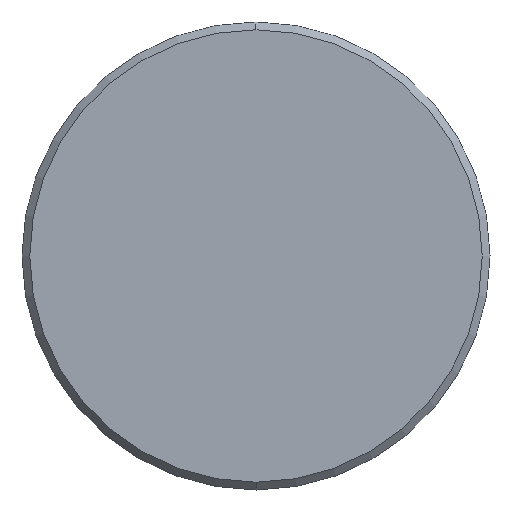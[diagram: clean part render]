
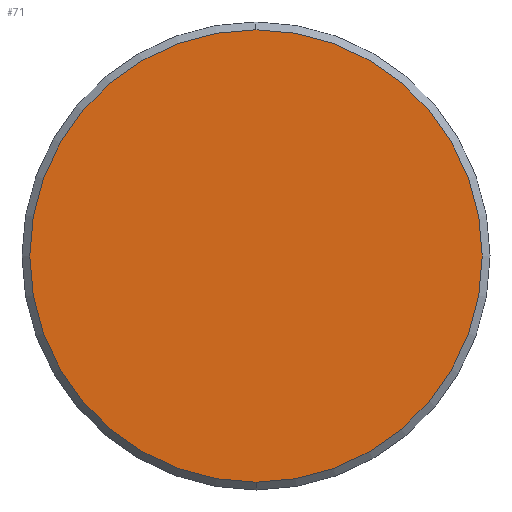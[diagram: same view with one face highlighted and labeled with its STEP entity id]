
A CAD part, left-side view. The second image highlights one B-rep face of the part: STEP entity #71.
In plain terms, the highlighted planar face has unit normal (-1, 0, 0).
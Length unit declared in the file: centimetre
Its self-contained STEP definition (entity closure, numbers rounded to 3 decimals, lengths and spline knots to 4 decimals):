
#10 = EDGE_CURVE ( 'NONE', #13, #49, #92, .T. ) ;
#13 = VERTEX_POINT ( 'NONE', #146 ) ;
#41 = EDGE_LOOP ( 'NONE', ( #73, #74 ) ) ;
#49 = VERTEX_POINT ( 'NONE', #155 ) ;
#71 = ADVANCED_FACE ( 'NONE', ( #241 ), #240, .T. ) ;
#73 = ORIENTED_EDGE ( 'NONE', *, *, #85, .T. ) ;
#74 = ORIENTED_EDGE ( 'NONE', *, *, #10, .T. ) ;
#85 = EDGE_CURVE ( 'NONE', #49, #13, #261, .T. ) ;
#88 = DIRECTION ( 'NONE',  ( 0., 0., -1. ) ) ;
#89 = DIRECTION ( 'NONE',  ( -1., 0., 0. ) ) ;
#90 = CARTESIAN_POINT ( 'NONE',  ( 0., 0., 0. ) ) ;
#91 = AXIS2_PLACEMENT_3D ( 'NONE', #90, #89, #88 ) ;
#92 = CIRCLE ( 'NONE', #91, 1.45 ) ;
#146 = CARTESIAN_POINT ( 'NONE',  ( 0., 0., 1.45 ) ) ;
#155 = CARTESIAN_POINT ( 'NONE',  ( 0., 0., -1.45 ) ) ;
#236 = DIRECTION ( 'NONE',  ( 0., -1., 0. ) ) ;
#237 = DIRECTION ( 'NONE',  ( -1., 0., 0. ) ) ;
#238 = CARTESIAN_POINT ( 'NONE',  ( 0., 0.75, 0. ) ) ;
#239 = AXIS2_PLACEMENT_3D ( 'NONE', #238, #237, #236 ) ;
#240 = PLANE ( 'NONE',  #239 ) ;
#241 = FACE_OUTER_BOUND ( 'NONE', #41, .T. ) ;
#257 = DIRECTION ( 'NONE',  ( 0., 0., -1. ) ) ;
#258 = DIRECTION ( 'NONE',  ( -1., 0., 0. ) ) ;
#259 = CARTESIAN_POINT ( 'NONE',  ( 0., 0., 0. ) ) ;
#260 = AXIS2_PLACEMENT_3D ( 'NONE', #259, #258, #257 ) ;
#261 = CIRCLE ( 'NONE', #260, 1.45 ) ;
